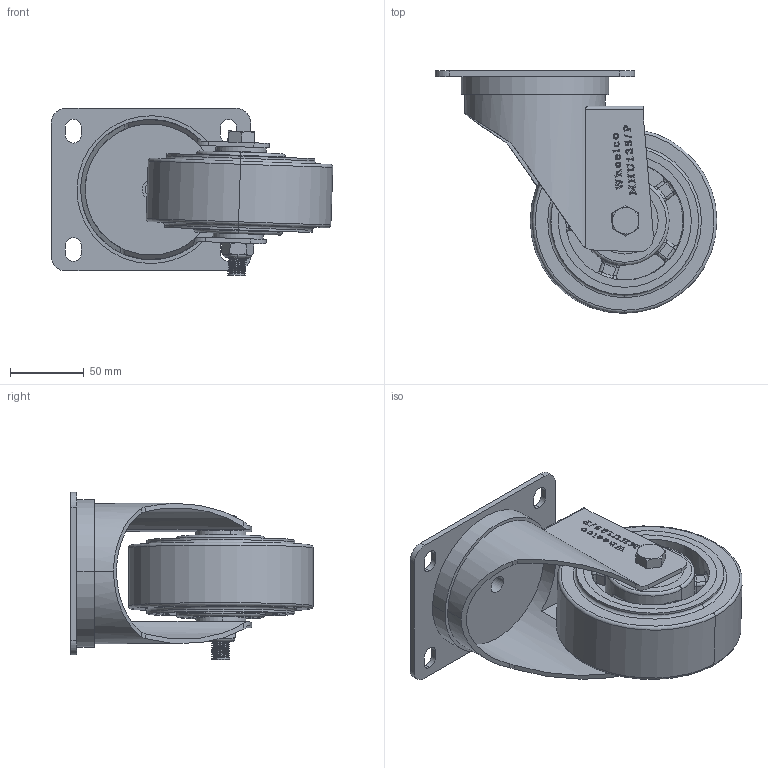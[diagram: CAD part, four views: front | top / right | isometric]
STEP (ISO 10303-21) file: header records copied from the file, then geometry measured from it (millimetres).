
FILE_DESCRIPTION (( 'STEP AP214' ), '1' );
FILE_NAME ('MHU125-P.step', '2023-12-04T19:33:53', ( '' ), ( '' ), 'SwSTEP 2.0', 'SolidWorks 2022', '' );
FILE_SCHEMA (( 'AUTOMOTIVE_DESIGN' ));
Length unit declared in the file: millimetre
Products named in the file (8): M12NYLOC; MHU125-P; SP20-12-62; 135X110 MHU; MHU125-P FORK; M12 X 90; 20mm Plastic Washer BLACK; MHU125
Assembly tree (8 placements, depth 2):
  MHU125-P
    135X110 MHU
    M12 X 90
    M12NYLOC
    SP20-12-62
    20mm Plastic Washer BLACK  x2
    MHU125-P FORK
    MHU125
Bounding box: 190.59 x 164 x 113.22 mm (x, y, z)
Volume: 754410.5 mm3; surface area: 169807 mm2
Topology: 8 solids, 8 shells, 682 faces, 1804 edges, 1169 vertices
Faces by surface type: plane 313, cylinder 184, bspline 135, torus 34, cone 16
Entity records: 36349 total; most frequent: CARTESIAN_POINT 17221, ORIENTED_EDGE 3584, DIRECTION 2875, EDGE_CURVE 1792, VERTEX_POINT 1161, VECTOR 993, LINE 993, AXIS2_PLACEMENT_3D 941
